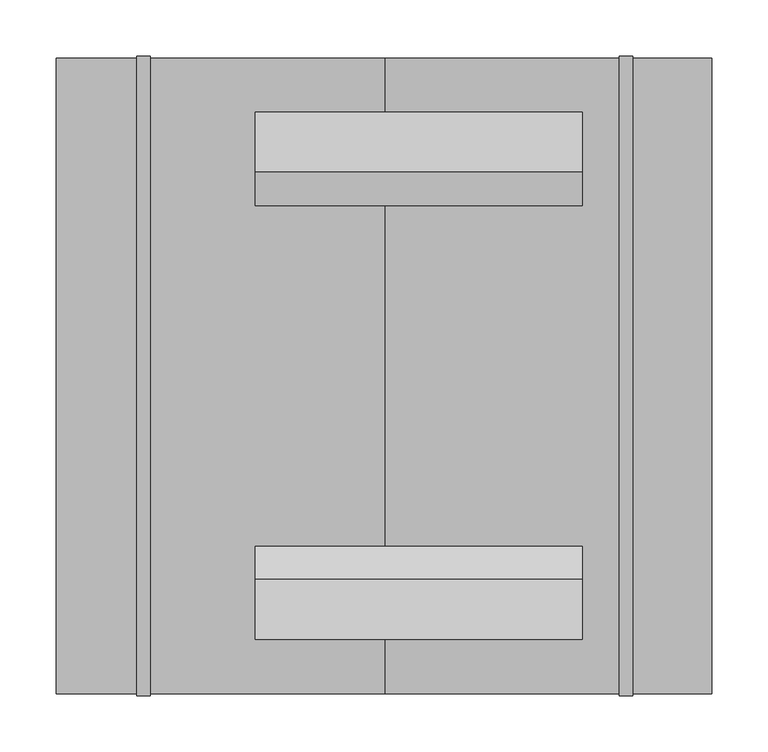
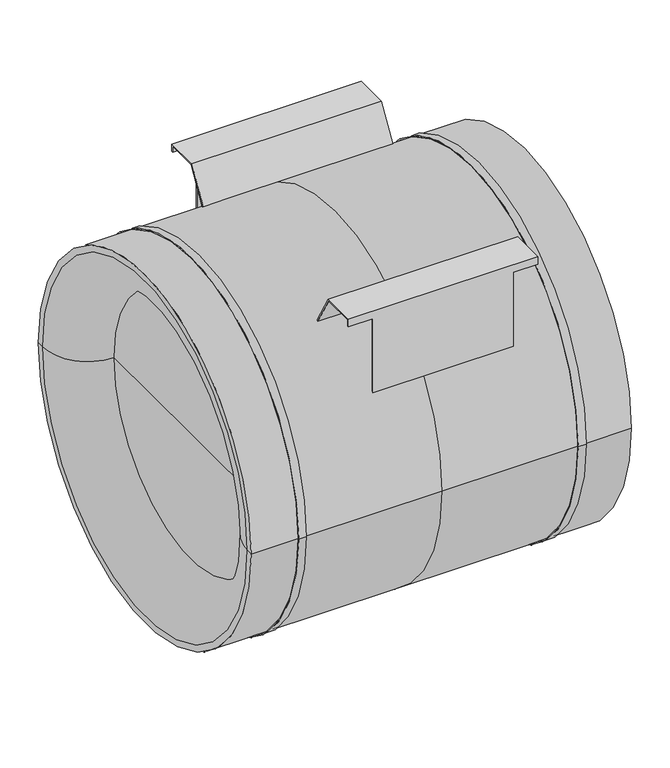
"""IFC4 building model written with IfcOpenShell, lengths in millimetres: unitary equipment geometry, VE-Wentylator-ParaForma-Harmann-JETTEC-Nawiewny : 560/10800F."""

from ifc_helpers import new_model, si_unit, point, frame, frame_2d, origin, place, context, project, spatial, polyline, circle_curve, ellipse_curve, trimmed, segment, composite_curve, outline, extrude, source, transform, mapped, element, save
from ifc_brep_helpers import plane_surface, cylinder_surface, revolved_surface, advanced_brep


def unitary_equipment_dfc384ea(model_context):
    return source(origin(), model_context, "Body", "SolidModel", [
        extrude(outline(composite_curve([segment(polyline([(-45.5, -47.7), (-45.5, 47.7)]), True, "CONTINUOUS"), segment(trimmed(circle_curve(frame_2d((-40.5, 47.7)), 5.0), [point((-45.5, 47.7))], [point((-40.5, 52.7))], False, "CARTESIAN"), True, "CONTINUOUS"), segment(polyline([(-40.5, 52.7), (40.5, 52.7)]), True, "CONTINUOUS"), segment(trimmed(circle_curve(frame_2d((40.5, 47.7)), 5.0), [point((40.5, 52.7))], [point((45.5, 47.7))], False, "CARTESIAN"), True, "CONTINUOUS"), segment(polyline([(45.5, 47.7), (45.5, -47.7)]), True, "CONTINUOUS"), segment(trimmed(circle_curve(frame_2d((40.5, -47.7)), 5.0), [point((45.5, -47.7))], [point((40.5, -52.7))], False, "CARTESIAN"), True, "CONTINUOUS"), segment(polyline([(40.5, -52.7), (-40.5, -52.7)]), True, "CONTINUOUS"), segment(trimmed(circle_curve(frame_2d((-40.5, -47.7)), 5.0), [point((-40.5, -52.7))], [point((-45.5, -47.7))], False, "CARTESIAN"), True, "CONTINUOUS")], self_intersect=False)), frame((0.0, -55.0, 0.0), z_axis=(0.0, 1.0, 0.0), x_axis=(0.0, 0.0, 1.0)), (0.0, 0.0, 1.0), 45.0),
        advanced_brep(
        [(175.0, 234.0, 277.0), (175.0, 234.0, 289.0), (175.0, 180.8, 289.0), (175.0, 151.1693096, 238.0584799), (175.0, 152.8553733, 236.9793975), (175.0, 181.950402, 287.0), (175.0, 232.0, 287.0), (175.0, 232.0, 277.0), (137.5, 232.0, 277.0), (137.5, 234.0, 277.0), (-115.0, 232.0, 287.0), (-115.0, 232.0, 277.0), (-77.5, 232.0, 277.0), (-77.5, 232.0, 160.3121954), (137.5, 232.0, 160.3121954), (-115.0, 181.950402, 287.0), (137.5, 152.8553733, 236.9793975), (-77.5, 152.8553733, 236.9793975), (-115.0, 152.8553733, 236.9793975), (-115.0, 180.8, 289.0), (-115.0, 151.1693096, 238.0584799), (-77.5, 151.1693096, 238.0584799), (137.5, 151.1693096, 238.0584799), (-115.0, 234.0, 289.0), (137.5, 234.0, 157.3785246), (-77.5, 234.0, 157.3785246), (-77.5, 234.0, 277.0), (-115.0, 234.0, 277.0)],
        [
            (0, 1),
            (1, 2),
            (2, 3),
            (3, 4, circle_curve(frame((175.0, 0.0, 0.0), z_axis=(-1.0, 0.0, 0.0), x_axis=(0.0, 1.0, 0.0)), 282.0)),
            (4, 5),
            (5, 6),
            (6, 7),
            (7, 0),
            (7, 8),
            (8, 9),
            (9, 0),
            (6, 10),
            (10, 11),
            (11, 12),
            (12, 13),
            (13, 14),
            (14, 8),
            (5, 15),
            (15, 10),
            (4, 16),
            (16, 17),
            (17, 18),
            (18, 15),
            (19, 20),
            (20, 21),
            (21, 22),
            (22, 3),
            (2, 19),
            (1, 23),
            (23, 19),
            (9, 24),
            (24, 25),
            (25, 26),
            (26, 27),
            (27, 23),
            (20, 18, circle_curve(frame((-115.0, 0.0, 0.0), z_axis=(-1.0, 0.0, 0.0), x_axis=(0.0, 1.0, 0.0)), 282.0)),
            (17, 21, circle_curve(frame((-77.5, 0.0, 0.0), z_axis=(1.0, 0.0, 0.0), x_axis=(0.0, 1.0, 0.0)), 282.0)),
            (22, 16, circle_curve(frame((137.5, 0.0, 0.0), z_axis=(-1.0, 0.0, 0.0), x_axis=(0.0, 1.0, 0.0)), 282.0)),
            (25, 13, circle_curve(frame((-77.5, 0.0, 0.0), z_axis=(1.0, 0.0, 0.0), x_axis=(0.0, 1.0, 0.0)), 282.0)),
            (12, 26),
            (14, 24, circle_curve(frame((137.5, 0.0, 0.0), z_axis=(-1.0, 0.0, 0.0), x_axis=(0.0, 1.0, 0.0)), 282.0)),
            (27, 11),
        ],
        [
            plane_surface(frame((175.0, 0.0, 0.0), z_axis=(1.0, 0.0, 0.0), x_axis=(0.0, 0.0, 1.0))),
            plane_surface(frame((137.5, 234.0, 277.0), z_axis=(0.0, 0.0, -1.0), x_axis=(1.0, 0.0, 0.0))),
            plane_surface(frame((137.5, 232.0, 277.0), z_axis=(0.0, -1.0, 0.0), x_axis=(1.0, 0.0, 0.0))),
            plane_surface(frame((137.5, 232.0, 287.0), z_axis=(0.0, 0.0, -1.0), x_axis=(1.0, 0.0, 0.0))),
            plane_surface(frame((137.5, 181.950402, 287.0), z_axis=(0.0, 0.864407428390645, -0.5027920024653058), x_axis=(1.0, 0.0, 0.0))),
            plane_surface(frame((137.5, 12.7, 0.0), z_axis=(0.0, -0.864407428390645, 0.5027920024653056), x_axis=(1.0, 0.0, 0.0))),
            plane_surface(frame((137.5, 180.8, 289.0), z_axis=(0.0, 0.0, 1.0), x_axis=(1.0, 0.0, 0.0))),
            plane_surface(frame((137.5, 234.0, 289.0), z_axis=(0.0, 1.0, 0.0), x_axis=(1.0, 0.0, 0.0))),
            revolved_surface(polyline([(-115.0, 282.0, 0.0), (-77.5, 282.0, 0.0)]), (-115.0, 0.0, 0.0), (-1.0, 0.0, 0.0)),
            revolved_surface(polyline([(137.5, 282.0, 0.0), (175.0, 282.0, 0.0)]), (137.5, 0.0, 0.0), (-1.0, 0.0, 0.0)),
            plane_surface(frame((-77.5, 0.0, 0.0), z_axis=(-1.0, 0.0, 0.0), x_axis=(0.0, 0.0, 1.0))),
            plane_surface(frame((137.5, 0.0, 0.0), z_axis=(1.0, 0.0, 0.0), x_axis=(0.0, 0.0, 1.0))),
            revolved_surface(polyline([(-77.5, 282.0, 0.0), (137.5, 282.0, 0.0)]), (-77.5, 0.0, 0.0), (-1.0, 0.0, 0.0)),
            plane_surface(frame((-115.0, 0.0, 0.0), z_axis=(-1.0, 0.0, 0.0), x_axis=(0.0, 0.0, 1.0))),
            plane_surface(frame((-115.0, 234.0, 277.0), z_axis=(0.0, 0.0, -1.0), x_axis=(1.0, 0.0, 0.0))),
        ],
        [
            (0, [[1, 2, 3, 4, 5, 6, 7, 8]]),
            (1, [[-8, 9, 10, 11]]),
            (2, [[-7, 12, 13, 14, 15, 16, 17, -9]]),
            (3, [[-12, -6, 18, 19]]),
            (4, [[-18, -5, 20, 21, 22, 23]]),
            (5, [[24, 25, 26, 27, -3, 28]]),
            (6, [[-28, -2, 29, 30]]),
            (7, [[-29, -1, -11, 31, 32, 33, 34, 35]]),
            (8, [[36, -22, 37, -25]]),
            (9, [[-4, -27, 38, -20]]),
            (10, [[39, -15, 40, -33]]),
            (11, [[41, -31, -10, -17]]),
            (12, [[-21, -38, -26, -37]]),
            (12, [[-39, -32, -41, -16]]),
            (13, [[42, -13, -19, -23, -36, -24, -30, -35]]),
            (14, [[-42, -34, -40, -14]]),
        ],
    ),
        advanced_brep(
        [(175.0, -180.8, 289.0), (175.0, -234.0, 289.0), (175.0, -234.0, 277.0), (175.0, -232.0, 277.0), (175.0, -232.0, 287.0), (175.0, -181.950402, 287.0), (175.0, -152.8553733, 236.9793975), (175.0, -151.1693096, 238.0584799), (-115.0, -181.950402, 287.0), (-115.0, -152.8553733, 236.9793975), (-77.5, -152.8553733, 236.9793975), (137.5, -152.8553733, 236.9793975), (-115.0, -232.0, 287.0), (137.5, -232.0, 277.0), (137.5, -232.0, 160.3121954), (-77.5, -232.0, 160.3121954), (-77.5, -232.0, 277.0), (-115.0, -232.0, 277.0), (137.5, -234.0, 277.0), (-115.0, -234.0, 289.0), (-115.0, -234.0, 277.0), (-77.5, -234.0, 277.0), (-77.5, -234.0, 157.3785246), (137.5, -234.0, 157.3785246), (-115.0, -180.8, 289.0), (137.5, -151.1693096, 238.0584799), (-77.5, -151.1693096, 238.0584799), (-115.0, -151.1693096, 238.0584799)],
        [
            (0, 1),
            (1, 2),
            (2, 3),
            (3, 4),
            (4, 5),
            (5, 6),
            (6, 7, circle_curve(frame((175.0, 0.0, 0.0), z_axis=(-1.0, 0.0, 0.0), x_axis=(0.0, 1.0, 0.0)), 282.0)),
            (7, 0),
            (8, 9),
            (9, 10),
            (10, 11),
            (11, 6),
            (5, 8),
            (4, 12),
            (12, 8),
            (3, 13),
            (13, 14),
            (14, 15),
            (15, 16),
            (16, 17),
            (17, 12),
            (2, 18),
            (18, 13),
            (1, 19),
            (19, 20),
            (20, 21),
            (21, 22),
            (22, 23),
            (23, 18),
            (0, 24),
            (24, 19),
            (7, 25),
            (25, 26),
            (26, 27),
            (27, 24),
            (9, 27, circle_curve(frame((-115.0, 0.0, 0.0), z_axis=(-1.0, 0.0, 0.0), x_axis=(0.0, 1.0, 0.0)), 282.0)),
            (26, 10, circle_curve(frame((-77.5, 0.0, 0.0), z_axis=(1.0, 0.0, 0.0), x_axis=(0.0, 1.0, 0.0)), 282.0)),
            (11, 25, circle_curve(frame((137.5, 0.0, 0.0), z_axis=(-1.0, 0.0, 0.0), x_axis=(0.0, 1.0, 0.0)), 282.0)),
            (15, 22, circle_curve(frame((-77.5, 0.0, 0.0), z_axis=(1.0, 0.0, 0.0), x_axis=(0.0, 1.0, 0.0)), 282.0)),
            (21, 16),
            (23, 14, circle_curve(frame((137.5, 0.0, 0.0), z_axis=(-1.0, 0.0, 0.0), x_axis=(0.0, 1.0, 0.0)), 282.0)),
            (17, 20),
        ],
        [
            plane_surface(frame((175.0, 0.0, 0.0), z_axis=(1.0, 0.0, 0.0), x_axis=(0.0, 0.0, 1.0))),
            plane_surface(frame((137.5, -13.850402, -2.0), z_axis=(0.0, -0.8644074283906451, -0.5027920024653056), x_axis=(1.0, 0.0, 0.0))),
            plane_surface(frame((137.5, -181.950402, 287.0), z_axis=(0.0, 0.0, -1.0), x_axis=(1.0, 0.0, 0.0))),
            plane_surface(frame((137.5, -232.0, 287.0), z_axis=(0.0, 1.0, 0.0), x_axis=(1.0, 0.0, 0.0))),
            plane_surface(frame((137.5, -232.0, 277.0), z_axis=(0.0, 0.0, -1.0), x_axis=(1.0, 0.0, 0.0))),
            plane_surface(frame((137.5, -234.0, 277.0), z_axis=(0.0, -1.0, 0.0), x_axis=(1.0, 0.0, 0.0))),
            plane_surface(frame((137.5, -234.0, 289.0), z_axis=(0.0, 0.0, 1.0), x_axis=(1.0, 0.0, 0.0))),
            plane_surface(frame((137.5, -180.8, 289.0), z_axis=(0.0, 0.864407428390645, 0.5027920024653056), x_axis=(1.0, 0.0, 0.0))),
            revolved_surface(polyline([(-115.0, 282.0, 0.0), (-77.5, 282.0, 0.0)]), (-115.0, 0.0, 0.0), (-1.0, 0.0, 0.0)),
            revolved_surface(polyline([(137.5, 282.0, 0.0), (175.0, 282.0, 0.0)]), (137.5, 0.0, 0.0), (-1.0, 0.0, 0.0)),
            plane_surface(frame((-77.5, 0.0, 0.0), z_axis=(-1.0, 0.0, 0.0), x_axis=(0.0, 0.0, 1.0))),
            plane_surface(frame((137.5, 0.0, 0.0), z_axis=(1.0, 0.0, 0.0), x_axis=(0.0, 0.0, 1.0))),
            revolved_surface(polyline([(-77.5, 282.0, 0.0), (137.5, 282.0, 0.0)]), (-77.5, 0.0, 0.0), (-1.0, 0.0, 0.0)),
            plane_surface(frame((-115.0, 0.0, 0.0), z_axis=(-1.0, 0.0, 0.0), x_axis=(0.0, 0.0, 1.0))),
            plane_surface(frame((-115.0, -232.0, 277.0), z_axis=(0.0, 0.0, -1.0), x_axis=(1.0, 0.0, 0.0))),
        ],
        [
            (0, [[1, 2, 3, 4, 5, 6, 7, 8]]),
            (1, [[9, 10, 11, 12, -6, 13]]),
            (2, [[-13, -5, 14, 15]]),
            (3, [[-14, -4, 16, 17, 18, 19, 20, 21]]),
            (4, [[-3, 22, 23, -16]]),
            (5, [[-2, 24, 25, 26, 27, 28, 29, -22]]),
            (6, [[-24, -1, 30, 31]]),
            (7, [[-30, -8, 32, 33, 34, 35]]),
            (8, [[36, -34, 37, -10]]),
            (9, [[-7, -12, 38, -32]]),
            (10, [[39, -27, 40, -19]]),
            (11, [[41, -17, -23, -29]]),
            (12, [[-11, -37, -33, -38]]),
            (12, [[-39, -18, -41, -28]]),
            (13, [[-15, -21, 42, -25, -31, -35, -36, -9]]),
            (14, [[-42, -20, -40, -26]]),
        ],
    ),
        advanced_brep(
        [(-208.0, 282.0, 0.0), (0.0, 282.0, 0.0), (0.0, -282.0, 0.0), (-208.0, -282.0, 0.0), (-291.5, -282.0, 0.0), (-291.5, 282.0, 0.0), (-220.0, 282.0, 0.0), (-220.0, -282.0, 0.0), (-291.5, -272.0, 0.0), (-291.5, 272.0, 0.0), (-222.0, -202.5, 0.0), (-222.0, 202.5, 0.0), (-222.0, 0.0, 0.0), (290.0, -282.0, 0.0), (290.0, 282.0, 0.0), (290.0, 0.0, 0.0), (220.0, -282.0, 0.0), (220.0, 282.0, 0.0), (208.0, 282.0, 0.0), (208.0, -282.0, 0.0), (-208.0, -283.8, 0.0), (-208.0, 283.8, 0.0), (-220.0, -283.8, 0.0), (-220.0, 283.8, 0.0), (220.0, -283.8, 0.0), (220.0, 283.8, 0.0), (208.0, -283.8, 0.0), (208.0, 283.8, 0.0)],
        [
            (0, 1),
            (1, 2, circle_curve(frame((0.0, 0.0, 0.0), z_axis=(-1.0, 0.0, 0.0), x_axis=(0.0, 1.0, 0.0)), 282.0)),
            (2, 3),
            (3, 0, circle_curve(frame((-208.0, 0.0, 0.0), z_axis=(1.0, 0.0, 0.0), x_axis=(0.0, 1.0, 0.0)), 282.0)),
            (0, 3, circle_curve(frame((-208.0, 0.0, 0.0), z_axis=(1.0, 0.0, 0.0), x_axis=(0.0, 1.0, 0.0)), 282.0)),
            (2, 1, circle_curve(frame((0.0, 0.0, 0.0), z_axis=(-1.0, 0.0, 0.0), x_axis=(0.0, 1.0, 0.0)), 282.0)),
            (4, 5, circle_curve(frame((-291.5, 0.0, 0.0), z_axis=(1.0, 0.0, 0.0), x_axis=(0.0, 1.0, 0.0)), 282.0)),
            (5, 6),
            (6, 7, circle_curve(frame((-220.0, 0.0, 0.0), z_axis=(-1.0, 0.0, 0.0), x_axis=(0.0, 1.0, 0.0)), 282.0)),
            (7, 4),
            (5, 4, circle_curve(frame((-291.5, 0.0, 0.0), z_axis=(1.0, 0.0, 0.0), x_axis=(0.0, 1.0, 0.0)), 282.0)),
            (7, 6, circle_curve(frame((-220.0, 0.0, 0.0), z_axis=(-1.0, 0.0, 0.0), x_axis=(0.0, 1.0, 0.0)), 282.0)),
            (4, 8),
            (8, 9, circle_curve(frame((-291.5, 0.0, 0.0), z_axis=(1.0, 0.0, 0.0), x_axis=(0.0, 1.0, 0.0)), 272.0)),
            (9, 5),
            (9, 8, circle_curve(frame((-291.5, 0.0, 0.0), z_axis=(1.0, 0.0, 0.0), x_axis=(0.0, 1.0, 0.0)), 272.0)),
            (8, 10, circle_curve(frame((-222.0, -272.0, 0.0), z_axis=(0.0, 0.0, -1.0), x_axis=(1.0, 0.0, 0.0)), 69.5)),
            (10, 11, circle_curve(frame((-222.0, 0.0, 0.0), z_axis=(1.0, 0.0, 0.0), x_axis=(0.0, 1.0, 0.0)), 202.5)),
            (11, 9, circle_curve(frame((-222.0, 272.0, 0.0), z_axis=(0.0, 0.0, -1.0), x_axis=(1.0, 0.0, 0.0)), 69.5)),
            (11, 10, circle_curve(frame((-222.0, 0.0, 0.0), z_axis=(1.0, 0.0, 0.0), x_axis=(0.0, 1.0, 0.0)), 202.5)),
            (10, 12),
            (12, 11),
            (13, 14, circle_curve(frame((290.0, 0.0, 0.0), z_axis=(1.0, 0.0, 0.0), x_axis=(0.0, 1.0, 0.0)), 282.0)),
            (14, 15),
            (15, 13),
            (14, 13, circle_curve(frame((290.0, 0.0, 0.0), z_axis=(1.0, 0.0, 0.0), x_axis=(0.0, 1.0, 0.0)), 282.0)),
            (13, 16),
            (16, 17, circle_curve(frame((220.0, 0.0, 0.0), z_axis=(1.0, 0.0, 0.0), x_axis=(0.0, 1.0, 0.0)), 282.0)),
            (17, 14),
            (17, 16, circle_curve(frame((220.0, 0.0, 0.0), z_axis=(1.0, 0.0, 0.0), x_axis=(0.0, 1.0, 0.0)), 282.0)),
            (1, 18),
            (18, 19, circle_curve(frame((208.0, 0.0, 0.0), z_axis=(-1.0, 0.0, 0.0), x_axis=(0.0, 1.0, 0.0)), 282.0)),
            (19, 2),
            (19, 18, circle_curve(frame((208.0, 0.0, 0.0), z_axis=(-1.0, 0.0, 0.0), x_axis=(0.0, 1.0, 0.0)), 282.0)),
            (20, 21, circle_curve(frame((-208.0, 0.0, 0.0), z_axis=(1.0, 0.0, 0.0), x_axis=(0.0, 1.0, 0.0)), 283.8)),
            (21, 0),
            (3, 20),
            (21, 20, circle_curve(frame((-208.0, 0.0, 0.0), z_axis=(1.0, 0.0, 0.0), x_axis=(0.0, 1.0, 0.0)), 283.8)),
            (20, 22),
            (22, 23, circle_curve(frame((-220.0, 0.0, 0.0), z_axis=(1.0, 0.0, 0.0), x_axis=(0.0, 1.0, 0.0)), 283.8)),
            (23, 21),
            (23, 22, circle_curve(frame((-220.0, 0.0, 0.0), z_axis=(1.0, 0.0, 0.0), x_axis=(0.0, 1.0, 0.0)), 283.8)),
            (22, 7),
            (6, 23),
            (24, 25, circle_curve(frame((220.0, 0.0, 0.0), z_axis=(1.0, 0.0, 0.0), x_axis=(0.0, 1.0, 0.0)), 283.8)),
            (25, 17),
            (16, 24),
            (25, 24, circle_curve(frame((220.0, 0.0, 0.0), z_axis=(1.0, 0.0, 0.0), x_axis=(0.0, 1.0, 0.0)), 283.8)),
            (24, 26),
            (26, 27, circle_curve(frame((208.0, 0.0, 0.0), z_axis=(1.0, 0.0, 0.0), x_axis=(0.0, 1.0, 0.0)), 283.8)),
            (27, 25),
            (27, 26, circle_curve(frame((208.0, 0.0, 0.0), z_axis=(1.0, 0.0, 0.0), x_axis=(0.0, 1.0, 0.0)), 283.8)),
            (26, 19),
            (18, 27),
        ],
        [
            cylinder_surface(frame((-222.0, 0.0, 0.0), z_axis=(-1.0, 0.0, 0.0), x_axis=(0.0, 1.0, 0.0)), 282.0),
            plane_surface(frame((-291.5, 0.0, 0.0), z_axis=(-1.0, 0.0, 0.0), x_axis=(0.0, 1.0, 0.0))),
            revolved_surface(trimmed(ellipse_curve(frame((-222.0, 272.0, 0.0), z_axis=(0.0, 0.0, 1.0), x_axis=(1.0, 0.0, 0.0)), 69.5, 69.5), [point((-291.5, 272.0, 0.0))], [point((-222.0, 202.5, 0.0))], True, "CARTESIAN"), (-222.0, 0.0, 0.0), (-1.0, 0.0, 0.0)),
            plane_surface(frame((-222.0, 0.0, 0.0), z_axis=(-1.0, 0.0, 0.0), x_axis=(0.0, 1.0, 0.0))),
            plane_surface(frame((290.0, 0.0, 0.0), z_axis=(1.0, 0.0, 0.0), x_axis=(0.0, 1.0, 0.0))),
            cylinder_surface(frame((0.0, 0.0, 0.0), z_axis=(-1.0, 0.0, 0.0), x_axis=(0.0, 1.0, 0.0)), 282.0),
            plane_surface(frame((-208.0, 0.0, 0.0), z_axis=(1.0, 0.0, 0.0), x_axis=(0.0, 1.0, 0.0))),
            cylinder_surface(frame((-220.0, 0.0, 0.0), z_axis=(-1.0, 0.0, 0.0), x_axis=(0.0, 1.0, 0.0)), 283.8),
            plane_surface(frame((-220.0, 0.0, 0.0), z_axis=(-1.0, 0.0, 0.0), x_axis=(0.0, 1.0, 0.0))),
            plane_surface(frame((220.0, 0.0, 0.0), z_axis=(1.0, 0.0, 0.0), x_axis=(0.0, 1.0, 0.0))),
            plane_surface(frame((208.0, 0.0, 0.0), z_axis=(-1.0, 0.0, 0.0), x_axis=(0.0, 1.0, 0.0))),
        ],
        [
            (0, [[1, 2, 3, 4]]),
            (0, [[-1, 5, -3, 6]]),
            (0, [[7, 8, 9, 10]]),
            (0, [[-8, 11, -10, 12]]),
            (1, [[-7, 13, 14, 15]]),
            (1, [[-11, -15, 16, -13]]),
            (2, [[-14, 17, 18, 19]]),
            (2, [[-16, -19, 20, -17]]),
            (3, [[-18, 21, 22]]),
            (3, [[-20, -22, -21]]),
            (4, [[23, 24, 25]]),
            (4, [[-24, 26, -25]]),
            (5, [[-23, 27, 28, 29]]),
            (5, [[-26, -29, 30, -27]]),
            (5, [[31, 32, 33, -2]]),
            (5, [[-31, -6, -33, 34]]),
            (6, [[35, 36, -4, 37]]),
            (6, [[38, -37, -5, -36]]),
            (7, [[-35, 39, 40, 41]]),
            (7, [[-38, -41, 42, -39]]),
            (8, [[-40, 43, -9, 44]]),
            (8, [[-42, -44, -12, -43]]),
            (9, [[45, 46, -28, 47]]),
            (9, [[48, -47, -30, -46]]),
            (7, [[-45, 49, 50, 51]]),
            (7, [[-48, -51, 52, -49]]),
            (10, [[-50, 53, -32, 54]]),
            (10, [[-52, -54, -34, -53]]),
        ],
    ),
    ])


if __name__ == "__main__":
    model = new_model("IFC4")
    model_context = context("Model", 3, world=origin())
    ifc_project = project(units=[si_unit("LENGTHUNIT", "METRE", prefix="MILLI")], contexts=[model_context])
    site = spatial("IfcSite", under=ifc_project)
    building = spatial("IfcBuilding", under=site)
    placement = place(None, origin())
    unitary_equipment_shape = unitary_equipment_dfc384ea(model_context)
    element("IfcUnitaryEquipment", 1, ObjectType="VE-Wentylator-ParaForma-Harmann-JETTEC-Nawiewny : 560/10800F", at=placement, inside=building, context=model_context, shape_type="MappedRepresentation", body=[
        mapped(unitary_equipment_shape, transform((0.0, 0.0, 0.0), x_axis=(1.0, 0.0, 0.0), y_axis=(0.0, 1.0, 0.0), z_axis=(0.0, 0.0, 1.0))),
    ])
    save(model, "model.ifc")
